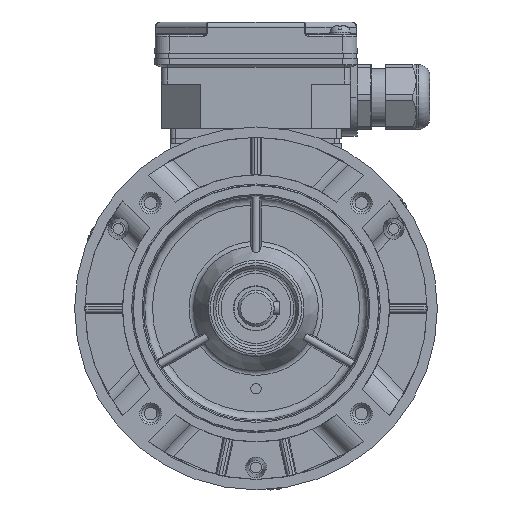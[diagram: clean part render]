
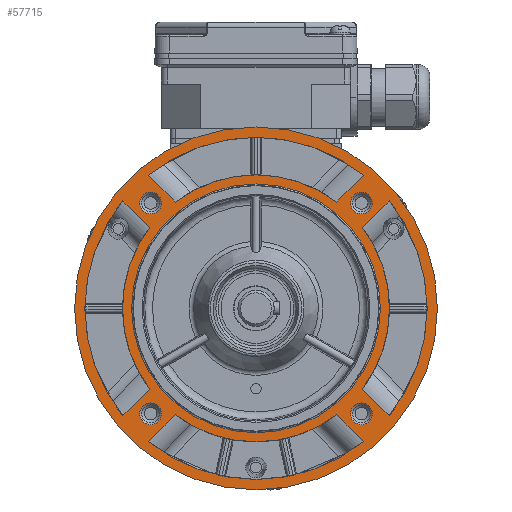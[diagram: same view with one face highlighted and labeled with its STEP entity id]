
A CAD part, front view. The second image highlights one B-rep face of the part: STEP entity #57715.
In plain terms, the highlighted planar face has unit normal (0, -1, 0).
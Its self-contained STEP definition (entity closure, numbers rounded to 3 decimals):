
#4248=CIRCLE('',#60947,48.);
#4249=CIRCLE('',#60949,51.5);
#4250=CIRCLE('',#60952,66.);
#4251=CIRCLE('',#60955,51.5);
#4252=CIRCLE('',#60958,66.);
#4253=CIRCLE('',#60961,51.5);
#4254=CIRCLE('',#60964,66.);
#4255=CIRCLE('',#60968,51.5);
#4256=CIRCLE('',#60971,66.);
#4257=CIRCLE('',#60973,4.2);
#4258=CIRCLE('',#60975,4.2);
#4259=CIRCLE('',#60977,4.2);
#4260=CIRCLE('',#60979,4.2);
#4286=CIRCLE('',#61025,70.);
#11501=ORIENTED_EDGE('',*,*,#20838,.T.);
#11502=ORIENTED_EDGE('',*,*,#20837,.T.);
#11503=ORIENTED_EDGE('',*,*,#20836,.T.);
#11504=ORIENTED_EDGE('',*,*,#20835,.T.);
#11505=ORIENTED_EDGE('',*,*,#20834,.F.);
#11506=ORIENTED_EDGE('',*,*,#20833,.F.);
#11507=ORIENTED_EDGE('',*,*,#20830,.T.);
#11508=ORIENTED_EDGE('',*,*,#20828,.T.);
#11509=ORIENTED_EDGE('',*,*,#20826,.T.);
#11510=ORIENTED_EDGE('',*,*,#20824,.F.);
#11511=ORIENTED_EDGE('',*,*,#20823,.F.);
#11512=ORIENTED_EDGE('',*,*,#20820,.T.);
#11513=ORIENTED_EDGE('',*,*,#20818,.T.);
#11514=ORIENTED_EDGE('',*,*,#20816,.F.);
#11515=ORIENTED_EDGE('',*,*,#20814,.F.);
#11516=ORIENTED_EDGE('',*,*,#20812,.T.);
#11517=ORIENTED_EDGE('',*,*,#20810,.T.);
#11518=ORIENTED_EDGE('',*,*,#20808,.F.);
#11519=ORIENTED_EDGE('',*,*,#20807,.F.);
#11520=ORIENTED_EDGE('',*,*,#20804,.T.);
#11521=ORIENTED_EDGE('',*,*,#20802,.T.);
#11522=ORIENTED_EDGE('',*,*,#20912,.T.);
#20802=EDGE_CURVE('',#26009,#26009,#4248,.F.);
#20804=EDGE_CURVE('',#26011,#26010,#4249,.T.);
#20807=EDGE_CURVE('',#26011,#26012,#29425,.T.);
#20808=EDGE_CURVE('',#26012,#26013,#4250,.T.);
#20810=EDGE_CURVE('',#26010,#26013,#29426,.T.);
#20812=EDGE_CURVE('',#26015,#26014,#4251,.T.);
#20814=EDGE_CURVE('',#26015,#26016,#29427,.T.);
#20816=EDGE_CURVE('',#26016,#26017,#4252,.T.);
#20818=EDGE_CURVE('',#26014,#26017,#29428,.T.);
#20820=EDGE_CURVE('',#26019,#26018,#4253,.T.);
#20823=EDGE_CURVE('',#26019,#26020,#29429,.T.);
#20824=EDGE_CURVE('',#26020,#26021,#4254,.T.);
#20826=EDGE_CURVE('',#26018,#26021,#29430,.T.);
#20828=EDGE_CURVE('',#26023,#26022,#29431,.T.);
#20830=EDGE_CURVE('',#26024,#26023,#4255,.T.);
#20833=EDGE_CURVE('',#26024,#26025,#29432,.T.);
#20834=EDGE_CURVE('',#26025,#26022,#4256,.T.);
#20835=EDGE_CURVE('',#26026,#26026,#4257,.F.);
#20836=EDGE_CURVE('',#26027,#26027,#4258,.F.);
#20837=EDGE_CURVE('',#26028,#26028,#4259,.F.);
#20838=EDGE_CURVE('',#26029,#26029,#4260,.F.);
#20912=EDGE_CURVE('',#26085,#26085,#4286,.T.);
#26009=VERTEX_POINT('',#86030);
#26010=VERTEX_POINT('',#86037);
#26011=VERTEX_POINT('',#86039);
#26012=VERTEX_POINT('',#86051);
#26013=VERTEX_POINT('',#86055);
#26014=VERTEX_POINT('',#86069);
#26015=VERTEX_POINT('',#86071);
#26016=VERTEX_POINT('',#86079);
#26017=VERTEX_POINT('',#86087);
#26018=VERTEX_POINT('',#86101);
#26019=VERTEX_POINT('',#86103);
#26020=VERTEX_POINT('',#86115);
#26021=VERTEX_POINT('',#86119);
#26022=VERTEX_POINT('',#86133);
#26023=VERTEX_POINT('',#86135);
#26024=VERTEX_POINT('',#86143);
#26025=VERTEX_POINT('',#86155);
#26026=VERTEX_POINT('',#86161);
#26027=VERTEX_POINT('',#86164);
#26028=VERTEX_POINT('',#86167);
#26029=VERTEX_POINT('',#86170);
#26085=VERTEX_POINT('',#86488);
#29425=LINE('',#86052,#32050);
#29426=LINE('',#86062,#32051);
#29427=LINE('',#86078,#32052);
#29428=LINE('',#86094,#32053);
#29429=LINE('',#86116,#32054);
#29430=LINE('',#86126,#32055);
#29431=LINE('',#86134,#32056);
#29432=LINE('',#86156,#32057);
#32050=VECTOR('',#68532,1000.);
#32051=VECTOR('',#68539,1000.);
#32052=VECTOR('',#68546,1000.);
#32053=VECTOR('',#68553,1000.);
#32054=VECTOR('',#68560,1000.);
#32055=VECTOR('',#68567,1000.);
#32056=VECTOR('',#68570,1000.);
#32057=VECTOR('',#68577,1000.);
#34802=EDGE_LOOP('',(#11501));
#34803=EDGE_LOOP('',(#11502));
#34804=EDGE_LOOP('',(#11503));
#34805=EDGE_LOOP('',(#11504));
#34806=EDGE_LOOP('',(#11505,#11506,#11507,#11508));
#34807=EDGE_LOOP('',(#11509,#11510,#11511,#11512));
#34808=EDGE_LOOP('',(#11513,#11514,#11515,#11516));
#34809=EDGE_LOOP('',(#11517,#11518,#11519,#11520));
#34810=EDGE_LOOP('',(#11521));
#34811=EDGE_LOOP('',(#11522));
#37572=FACE_BOUND('',#34802,.T.);
#37573=FACE_BOUND('',#34803,.T.);
#37574=FACE_BOUND('',#34804,.T.);
#37575=FACE_BOUND('',#34805,.T.);
#37576=FACE_BOUND('',#34806,.T.);
#37577=FACE_BOUND('',#34807,.T.);
#37578=FACE_BOUND('',#34808,.T.);
#37579=FACE_BOUND('',#34809,.T.);
#37580=FACE_BOUND('',#34810,.T.);
#37581=FACE_BOUND('',#34811,.T.);
#39334=PLANE('',#61024);
#57715=ADVANCED_FACE('',(#37572,#37573,#37574,#37575,#37576,#37577,#37578,
#37579,#37580,#37581),#39334,.T.);
#60947=AXIS2_PLACEMENT_3D('',#86029,#68524,#68525);
#60949=AXIS2_PLACEMENT_3D('',#86038,#68528,#68529);
#60952=AXIS2_PLACEMENT_3D('',#86054,#68535,#68536);
#60955=AXIS2_PLACEMENT_3D('',#86070,#68542,#68543);
#60958=AXIS2_PLACEMENT_3D('',#86086,#68549,#68550);
#60961=AXIS2_PLACEMENT_3D('',#86102,#68556,#68557);
#60964=AXIS2_PLACEMENT_3D('',#86118,#68563,#68564);
#60968=AXIS2_PLACEMENT_3D('',#86142,#68573,#68574);
#60971=AXIS2_PLACEMENT_3D('',#86158,#68580,#68581);
#60973=AXIS2_PLACEMENT_3D('',#86160,#68584,#68585);
#60975=AXIS2_PLACEMENT_3D('',#86163,#68588,#68589);
#60977=AXIS2_PLACEMENT_3D('',#86166,#68592,#68593);
#60979=AXIS2_PLACEMENT_3D('',#86169,#68596,#68597);
#61024=AXIS2_PLACEMENT_3D('',#86486,#68710,#68711);
#61025=AXIS2_PLACEMENT_3D('',#86487,#68712,#68713);
#68524=DIRECTION('',(0.,-1.,0.));
#68525=DIRECTION('',(0.,0.,1.));
#68528=DIRECTION('',(0.,-1.,0.));
#68529=DIRECTION('',(0.,0.,1.));
#68532=DIRECTION('',(0.707,0.,0.707));
#68535=DIRECTION('',(0.,-1.,0.));
#68536=DIRECTION('',(0.,0.,1.));
#68539=DIRECTION('',(-0.707,0.,0.707));
#68542=DIRECTION('',(0.,-1.,0.));
#68543=DIRECTION('',(0.,0.,1.));
#68546=DIRECTION('',(-0.707,0.,0.707));
#68549=DIRECTION('',(0.,-1.,0.));
#68550=DIRECTION('',(0.,0.,1.));
#68553=DIRECTION('',(-0.707,0.,-0.707));
#68556=DIRECTION('',(0.,-1.,0.));
#68557=DIRECTION('',(0.,0.,1.));
#68560=DIRECTION('',(-0.707,0.,-0.707));
#68563=DIRECTION('',(0.,-1.,0.));
#68564=DIRECTION('',(0.,0.,1.));
#68567=DIRECTION('',(0.707,0.,-0.707));
#68570=DIRECTION('',(0.707,0.,0.707));
#68573=DIRECTION('',(0.,-1.,0.));
#68574=DIRECTION('',(0.,0.,1.));
#68577=DIRECTION('',(0.707,0.,-0.707));
#68580=DIRECTION('',(0.,-1.,0.));
#68581=DIRECTION('',(0.,0.,1.));
#68584=DIRECTION('',(0.,-1.,0.));
#68585=DIRECTION('',(0.,0.,1.));
#68588=DIRECTION('',(0.,-1.,0.));
#68589=DIRECTION('',(0.,0.,1.));
#68592=DIRECTION('',(0.,-1.,0.));
#68593=DIRECTION('',(0.,0.,1.));
#68596=DIRECTION('',(0.,-1.,0.));
#68597=DIRECTION('',(0.,0.,1.));
#68710=DIRECTION('',(0.,-1.,0.));
#68711=DIRECTION('',(0.,0.,1.));
#68712=DIRECTION('',(0.,-1.,0.));
#68713=DIRECTION('',(0.,0.,1.));
#86029=CARTESIAN_POINT('',(0.,-41.,0.));
#86030=CARTESIAN_POINT('',(0.,-41.,48.));
#86037=CARTESIAN_POINT('',(-31.128,-41.,41.028));
#86038=CARTESIAN_POINT('',(0.,-41.,0.));
#86039=CARTESIAN_POINT('',(31.128,-41.,41.028));
#86051=CARTESIAN_POINT('',(41.456,-41.,51.356));
#86052=CARTESIAN_POINT('',(29.217,-41.,39.116));
#86054=CARTESIAN_POINT('',(0.,-41.,0.));
#86055=CARTESIAN_POINT('',(-41.456,-41.,51.356));
#86062=CARTESIAN_POINT('',(-29.217,-41.,39.116));
#86069=CARTESIAN_POINT('',(-41.028,-41.,-31.128));
#86070=CARTESIAN_POINT('',(0.,-41.,0.));
#86071=CARTESIAN_POINT('',(-41.028,-41.,31.128));
#86078=CARTESIAN_POINT('',(-39.116,-41.,29.217));
#86079=CARTESIAN_POINT('',(-51.356,-41.,41.456));
#86086=CARTESIAN_POINT('',(0.,-41.,0.));
#86087=CARTESIAN_POINT('',(-51.356,-41.,-41.456));
#86094=CARTESIAN_POINT('',(-39.116,-41.,-29.217));
#86101=CARTESIAN_POINT('',(31.128,-41.,-41.028));
#86102=CARTESIAN_POINT('',(0.,-41.,0.));
#86103=CARTESIAN_POINT('',(-31.128,-41.,-41.028));
#86115=CARTESIAN_POINT('',(-41.456,-41.,-51.356));
#86116=CARTESIAN_POINT('',(-29.217,-41.,-39.116));
#86118=CARTESIAN_POINT('',(0.,-41.,0.));
#86119=CARTESIAN_POINT('',(41.456,-41.,-51.356));
#86126=CARTESIAN_POINT('',(29.217,-41.,-39.116));
#86133=CARTESIAN_POINT('',(51.356,-41.,41.456));
#86134=CARTESIAN_POINT('',(39.116,-41.,29.217));
#86135=CARTESIAN_POINT('',(41.028,-41.,31.128));
#86142=CARTESIAN_POINT('',(0.,-41.,0.));
#86143=CARTESIAN_POINT('',(41.028,-41.,-31.128));
#86155=CARTESIAN_POINT('',(51.356,-41.,-41.456));
#86156=CARTESIAN_POINT('',(39.116,-41.,-29.217));
#86158=CARTESIAN_POINT('',(0.,-41.,0.));
#86160=CARTESIAN_POINT('',(-40.659,-41.,40.659));
#86161=CARTESIAN_POINT('',(-40.659,-41.,44.859));
#86163=CARTESIAN_POINT('',(40.659,-41.,40.659));
#86164=CARTESIAN_POINT('',(40.659,-41.,44.859));
#86166=CARTESIAN_POINT('',(40.659,-41.,-40.659));
#86167=CARTESIAN_POINT('',(40.659,-41.,-36.459));
#86169=CARTESIAN_POINT('',(-40.659,-41.,-40.659));
#86170=CARTESIAN_POINT('',(-40.659,-41.,-36.459));
#86486=CARTESIAN_POINT('',(0.,-41.,47.5));
#86487=CARTESIAN_POINT('',(0.,-41.,0.));
#86488=CARTESIAN_POINT('',(0.,-41.,70.));
